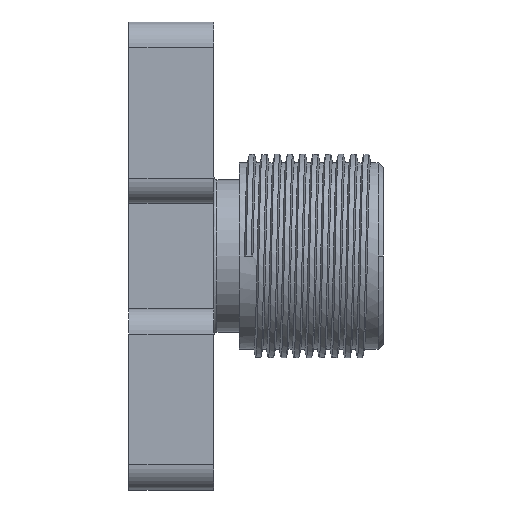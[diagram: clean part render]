
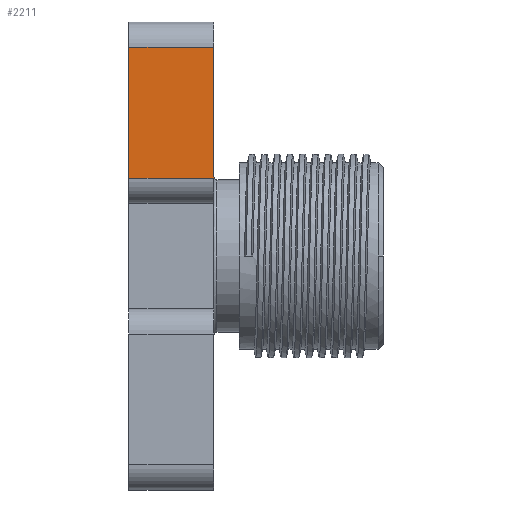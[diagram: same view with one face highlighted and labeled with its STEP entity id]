
A CAD part, left-side view. The second image highlights one B-rep face of the part: STEP entity #2211.
In plain terms, the highlighted planar face has unit normal (-1, 0, 0).
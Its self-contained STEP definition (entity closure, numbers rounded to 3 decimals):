
#50 = CARTESIAN_POINT ( 'NONE',  ( -21., 5., 12.3 ) ) ;
#291 = FACE_OUTER_BOUND ( 'NONE', #4021, .T. ) ;
#664 = LINE ( 'NONE', #2108, #722 ) ;
#722 = VECTOR ( 'NONE', #2403, 1000. ) ;
#834 = VERTEX_POINT ( 'NONE', #4024 ) ;
#1262 = EDGE_CURVE ( 'NONE', #3718, #834, #3686, .T. ) ;
#1492 = VERTEX_POINT ( 'NONE', #2567 ) ;
#1607 = VERTEX_POINT ( 'NONE', #50 ) ;
#1660 = DIRECTION ( 'NONE',  ( 0., 0., -1. ) ) ;
#1752 = EDGE_CURVE ( 'NONE', #1492, #3718, #3761, .T. ) ;
#1903 = EDGE_CURVE ( 'NONE', #834, #1607, #3876, .T. ) ;
#2042 = DIRECTION ( 'NONE',  ( 1., 0., 0. ) ) ;
#2108 = CARTESIAN_POINT ( 'NONE',  ( -21., 2.5, 12.3 ) ) ;
#2176 = VECTOR ( 'NONE', #3754, 1000. ) ;
#2211 = ADVANCED_FACE ( 'NONE', ( #291 ), #4103, .F. ) ;
#2277 = ORIENTED_EDGE ( 'NONE', *, *, #2531, .T. ) ;
#2292 = CARTESIAN_POINT ( 'NONE',  ( -21., 0., 12.3 ) ) ;
#2403 = DIRECTION ( 'NONE',  ( 0., 1., 0. ) ) ;
#2531 = EDGE_CURVE ( 'NONE', #1492, #1607, #664, .T. ) ;
#2567 = CARTESIAN_POINT ( 'NONE',  ( -21., 0., 12.3 ) ) ;
#2726 = CARTESIAN_POINT ( 'NONE',  ( -21., 5., 0. ) ) ;
#2893 = DIRECTION ( 'NONE',  ( 0., 0., 1. ) ) ;
#3031 = ORIENTED_EDGE ( 'NONE', *, *, #1903, .F. ) ;
#3319 = ORIENTED_EDGE ( 'NONE', *, *, #1752, .F. ) ;
#3450 = ORIENTED_EDGE ( 'NONE', *, *, #1262, .F. ) ;
#3456 = CARTESIAN_POINT ( 'NONE',  ( -21., 0., 4.6 ) ) ;
#3473 = AXIS2_PLACEMENT_3D ( 'NONE', #2292, #2042, #1660 ) ;
#3616 = CARTESIAN_POINT ( 'NONE',  ( -21., 2.5, 4.6 ) ) ;
#3686 = LINE ( 'NONE', #3616, #2176 ) ;
#3718 = VERTEX_POINT ( 'NONE', #3456 ) ;
#3754 = DIRECTION ( 'NONE',  ( 0., 1., 0. ) ) ;
#3761 = LINE ( 'NONE', #3830, #3769 ) ;
#3769 = VECTOR ( 'NONE', #3838, 1000. ) ;
#3830 = CARTESIAN_POINT ( 'NONE',  ( -21., 0., 8.45 ) ) ;
#3838 = DIRECTION ( 'NONE',  ( 0., 0., -1. ) ) ;
#3876 = LINE ( 'NONE', #2726, #3966 ) ;
#3966 = VECTOR ( 'NONE', #2893, 1000. ) ;
#4021 = EDGE_LOOP ( 'NONE', ( #3450, #3319, #2277, #3031 ) ) ;
#4024 = CARTESIAN_POINT ( 'NONE',  ( -21., 5., 4.6 ) ) ;
#4103 = PLANE ( 'NONE',  #3473 ) ;
